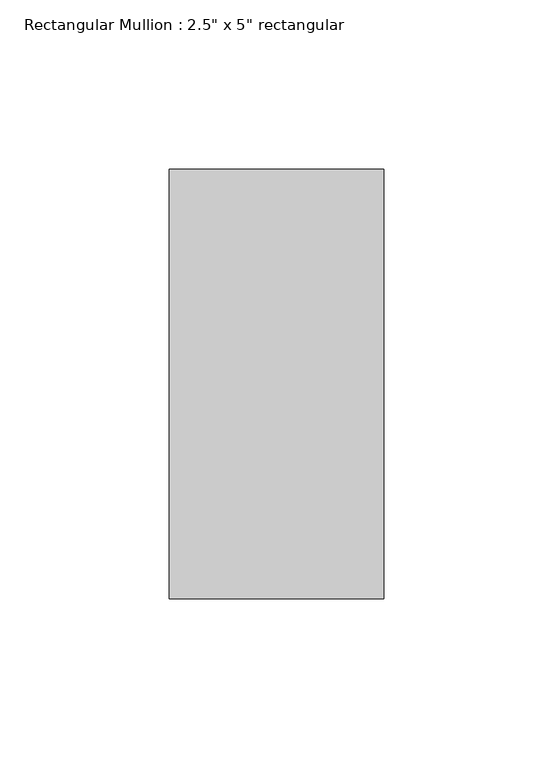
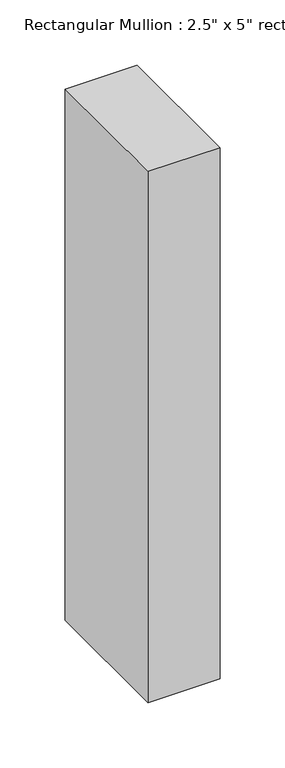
"""IFC4 building model written with IfcOpenShell, lengths in millimetres: member geometry."""

import ifcopenshell
import ifcopenshell.guid

model = None  # the IFC model being written
_history = None  # IfcOwnerHistory: only IFC2X3 demands one
_inside = {}  # id of a spatial element -> (the spatial element, [elements in it])
_under = {}  # id of a project, library or spatial element -> (it, [spatial elements below it])
_declared = {}  # id of a project -> (the project, [libraries it declares])
_typed = {}  # id of a type object -> (the type object, [elements of that type])
_made_of = {}  # id of a material, layer set ... -> (it, [elements and type objects made of it])


def new_model(schema):
    """Start an empty IFC model of exactly this schema.

    Asked for "IFC4X3", IfcOpenShell would pick the latest addendum, in which some entities
    have other attributes; the version numbers below select the first issue.
    IFC2X3 requires an IfcOwnerHistory on every rooted entity: one is made here for all.
    """
    global model, _history
    if schema == "IFC4X3":
        model = ifcopenshell.file(schema_version=(4, 3, 0, 0))
    else:
        model = ifcopenshell.file(schema=schema)
    _inside.clear()
    _under.clear()
    _declared.clear()
    _typed.clear()
    _made_of.clear()
    _history = None
    if model.schema == "IFC2X3":
        org = make("IfcOrganization", Name="unknown")
        user = make(
            "IfcPersonAndOrganization",
            ThePerson=make("IfcPerson", FamilyName="unknown"),
            TheOrganization=org,
        )
        app = make(
            "IfcApplication",
            ApplicationDeveloper=org,
            Version="unknown",
            ApplicationFullName="unknown",
            ApplicationIdentifier="unknown",
        )
        _history = make(
            "IfcOwnerHistory",
            OwningUser=user,
            OwningApplication=app,
            ChangeAction="ADDED",
            CreationDate=0,
        )
    return model


def make(cls, **values):
    """One entity of the class cls with the attributes given. An attribute that is None is left unset."""
    return model.create_entity(
        cls, **{name: value for name, value in values.items() if value is not None}
    )


def rooted(cls, **values):
    """An entity with a GlobalId (a new one), such as an element, a storey or a relation."""
    return make(cls, GlobalId=ifcopenshell.guid.new(), OwnerHistory=_history, **values)


def si_unit(unit_type, name, prefix=None):
    """IfcSIUnit, for example si_unit("LENGTHUNIT", "METRE", prefix="MILLI")."""
    return make("IfcSIUnit", UnitType=unit_type, Prefix=prefix, Name=name)


def assignment(units):
    """IfcUnitAssignment: the units of a project."""
    return None if units is None else make("IfcUnitAssignment", Units=units)


def point(xyz):
    """IfcCartesianPoint."""
    return None if xyz is None else make("IfcCartesianPoint", Coordinates=xyz)


def direction(xyz):
    """IfcDirection."""
    return None if xyz is None else make("IfcDirection", DirectionRatios=xyz)


def frame(location, z_axis=None, x_axis=None):
    """IfcAxis2Placement3D, a coordinate frame: its origin and axes. An axis left out is left unset."""
    return make(
        "IfcAxis2Placement3D",
        Location=point(location),
        Axis=direction(z_axis),
        RefDirection=direction(x_axis),
    )


def origin():
    """The frame at (0, 0, 0) with its axes left unset."""
    return frame((0.0, 0.0, 0.0))


def place(relative_to, where):
    """IfcLocalPlacement: puts the frame where relative to a parent placement (None: the world)."""
    return make(
        "IfcLocalPlacement", PlacementRelTo=relative_to, RelativePlacement=where
    )


def context(
    kind, dimensions, precision=None, world=None, true_north=None, identifier=None
):
    """IfcGeometricRepresentationContext, for example the 3D "Model" context."""
    return make(
        "IfcGeometricRepresentationContext",
        ContextIdentifier=identifier,
        ContextType=kind,
        CoordinateSpaceDimension=dimensions,
        Precision=precision,
        WorldCoordinateSystem=world,
        TrueNorth=true_north,
    )


def project(units=None, contexts=None):
    """IfcProject with its units and contexts."""
    return rooted(
        "IfcProject",
        Name="project",
        RepresentationContexts=contexts,
        UnitsInContext=assignment(units),
    )


def spatial(cls, under=None, at=None, **own):
    """A site, building, storey or space (cls), placed at a placement, below another one or the project."""
    s = rooted(cls, ObjectPlacement=at, **own)
    if under is not None:
        _under.setdefault(under.id(), (under, []))[1].append(s)
    return s


def polyline(points):
    """IfcPolyline through the points."""
    return make("IfcPolyline", Points=[point(p) for p in points])


def outline(outer, holes=None, kind="AREA"):
    """IfcArbitraryClosedProfileDef: a profile drawn as a closed curve; with holes, ...WithVoids."""
    if holes is None:
        return make("IfcArbitraryClosedProfileDef", ProfileType=kind, OuterCurve=outer)
    return make(
        "IfcArbitraryProfileDefWithVoids",
        ProfileType=kind,
        OuterCurve=outer,
        InnerCurves=holes,
    )


def extrude(swept, where, along, depth):
    """IfcExtrudedAreaSolid: the profile swept, set in the frame where, extruded along a direction by depth."""
    return make(
        "IfcExtrudedAreaSolid",
        SweptArea=swept,
        Position=where,
        ExtrudedDirection=direction(along),
        Depth=depth,
    )


def shape(context_of_items, identifier, shape_type, items):
    """IfcShapeRepresentation: the items that make up one representation, for example the "Body"."""
    return make(
        "IfcShapeRepresentation",
        ContextOfItems=context_of_items,
        RepresentationIdentifier=identifier,
        RepresentationType=shape_type,
        Items=items,
    )


def source(mapping_origin, context_of_items, identifier, shape_type, items):
    """IfcRepresentationMap: a shape defined once, which mapped items show again and again."""
    return make(
        "IfcRepresentationMap",
        MappingOrigin=mapping_origin,
        MappedRepresentation=shape(context_of_items, identifier, shape_type, items),
    )


def transform(
    local_origin,
    x_axis=None,
    y_axis=None,
    z_axis=None,
    scale=None,
    scale2=None,
    scale3=None,
    uniform=True,
):
    """IfcCartesianTransformationOperator3D, or its non-uniform kind. x_axis, y_axis, z_axis: its Axis1, 2, 3."""
    if uniform:
        return make(
            "IfcCartesianTransformationOperator3D",
            Axis1=direction(x_axis),
            Axis2=direction(y_axis),
            LocalOrigin=point(local_origin),
            Scale=scale,
            Axis3=direction(z_axis),
        )
    return make(
        "IfcCartesianTransformationOperator3DnonUniform",
        Axis1=direction(x_axis),
        Axis2=direction(y_axis),
        LocalOrigin=point(local_origin),
        Scale=scale,
        Axis3=direction(z_axis),
        Scale2=scale2,
        Scale3=scale3,
    )


def mapped(mapping_source, mapping_target):
    """IfcMappedItem: shows the shape of a source again, moved by a transform."""
    return make(
        "IfcMappedItem", MappingSource=mapping_source, MappingTarget=mapping_target
    )


def made_of(thing, what):
    """Note that an element or type object is made of a material, layer set ...; save() writes the relation."""
    if what is not None:
        _made_of.setdefault(what.id(), (what, []))[1].append(thing)
    return thing


def element(
    cls,
    number,
    at=None,
    inside=None,
    cuts=None,
    type_object=None,
    material=None,
    context=None,
    identifier="Body",
    shape_type=None,
    held_by="IfcProductDefinitionShape",
    body=None,
    shapes=None,
    **own,
):
    """One element of the class cls, such as IfcWall. Its Tag is "e" and its number.

    at: its placement. inside: the storey or other place that contains it. cuts: it is an
    opening in that element (IfcRelVoidsElement). A single representation is given by context,
    identifier, shape_type and body (its items); several are given by shapes. held_by: the class
    of the entity that holds the representations. save() writes the other relations.
    """
    e = rooted(cls, Tag="e%d" % number, ObjectPlacement=at, **own)
    if body is not None:
        shapes = [shape(context, identifier, shape_type, body)]
    if shapes is not None:
        e.Representation = make(held_by, Representations=shapes)
    if inside is not None:
        _inside.setdefault(inside.id(), (inside, []))[1].append(e)
    if cuts is not None:
        rooted(
            "IfcRelVoidsElement", RelatingBuildingElement=cuts, RelatedOpeningElement=e
        )
    if type_object is not None:
        _typed.setdefault(type_object.id(), (type_object, []))[1].append(e)
    return made_of(e, material)


def aggregate(whole, parts):
    """IfcRelAggregates: a whole, such as a stair, and the parts it consists of."""
    return rooted("IfcRelAggregates", RelatingObject=whole, RelatedObjects=parts)


def save(model, path):
    """Write the relations noted so far, then the file.

    IfcRelAggregates (storeys below a building ...), IfcRelContainedInSpatialStructure (elements
    in a storey), IfcRelDefinesByType, IfcRelAssociatesMaterial and IfcRelDeclares: one each for
    every whole, place, type object, material and project.
    """
    for whole, parts in _under.values():
        aggregate(whole, parts)
    for where, things in _inside.values():
        rooted(
            "IfcRelContainedInSpatialStructure",
            RelatedElements=things,
            RelatingStructure=where,
        )
    for kind, things in _typed.values():
        rooted("IfcRelDefinesByType", RelatedObjects=things, RelatingType=kind)
    for what, things in _made_of.values():
        rooted("IfcRelAssociatesMaterial", RelatedObjects=things, RelatingMaterial=what)
    for by, libraries in _declared.values():
        rooted("IfcRelDeclares", RelatingContext=by, RelatedDefinitions=libraries)
    model.write(path)


def member_52f6b921(model_context):
    return source(origin(), model_context, "Body", "SweptSolid", [
        extrude(outline(polyline([(31.75, 63.5), (31.75, -63.5), (-31.75, -63.5), (-31.75, 63.5), (31.75, 63.5)])), frame((0.0, 0.0, -496.6452541), z_axis=(0.0, 0.0, 1.0), x_axis=(1.0, 0.0, 0.0)), (0.0, 0.0, 1.0), 496.6452541),
    ])


if __name__ == "__main__":
    model = new_model("IFC4")
    model_context = context("Model", 3, world=origin())
    ifc_project = project(units=[si_unit("LENGTHUNIT", "METRE", prefix="MILLI")], contexts=[model_context])
    site = spatial("IfcSite", under=ifc_project)
    building = spatial("IfcBuilding", under=site)
    placement = place(None, origin())
    member_shape = member_52f6b921(model_context)
    element("IfcMember", 1, ObjectType="Rectangular Mullion : 2.5\" x 5\" rectangular", at=placement, inside=building, context=model_context, shape_type="MappedRepresentation", body=[
        mapped(member_shape, transform((0.0, 0.0, 0.0), x_axis=(1.0, 0.0, 0.0), y_axis=(0.0, 1.0, 0.0), z_axis=(0.0, 0.0, 1.0))),
    ])
    save(model, "model.ifc")
